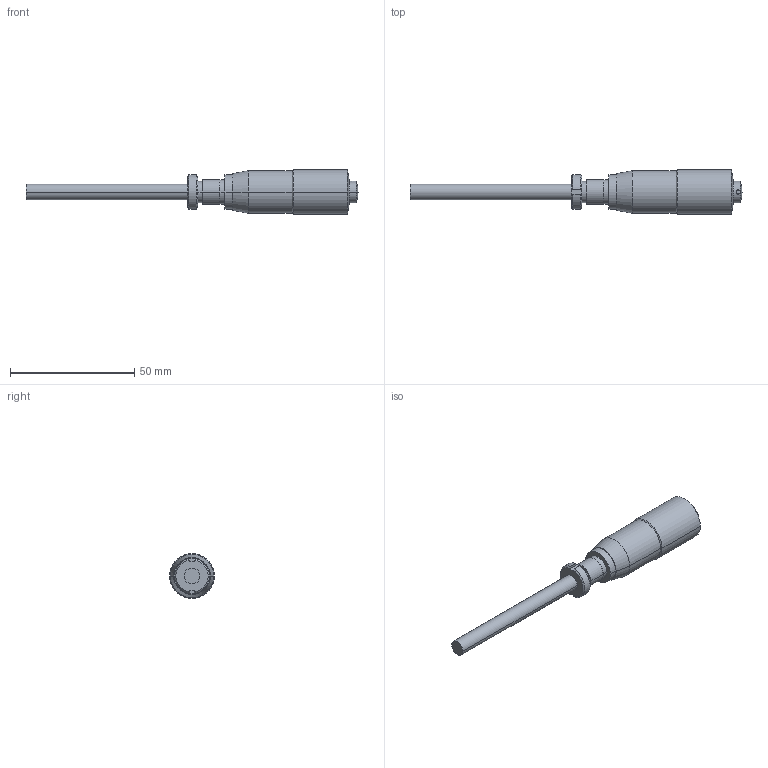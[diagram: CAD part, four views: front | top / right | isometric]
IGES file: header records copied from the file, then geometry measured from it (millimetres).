
Start section: Elysium IGES Interface
Global section: file name: 70HR:\01_商品設計部\01_MK外ﾃｰﾏ(U)\15_MH_3D\IGESﾌｧｲﾙ\150-220_MHN2-25HT.igs; native system: Creo Elements/Direct Modeling 18.1B  29-Sep-2012; preprocessor: Creo Element/Direct IGES_3D V2.2; author: Unknown; organization: Unknown; date: 20140624.083657; units: millimetre
Bounding box: 133.5 x 18 x 18 mm (x, y, z)
Volume: 15269 mm3; surface area: 5177.7 mm2
Topology: 1 solids, 1 shells, 47 faces, 104 edges, 65 vertices
Faces by surface type: bspline 47
